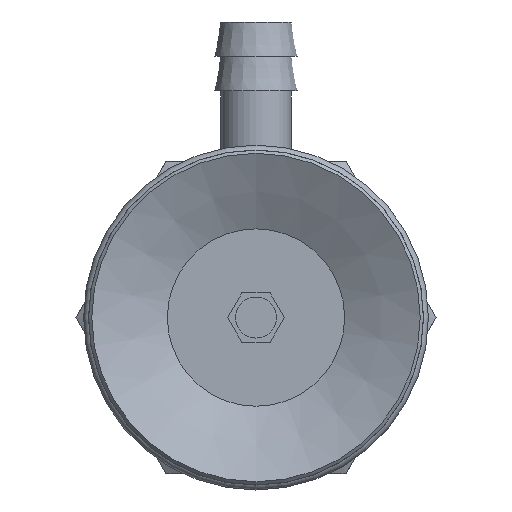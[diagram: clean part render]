
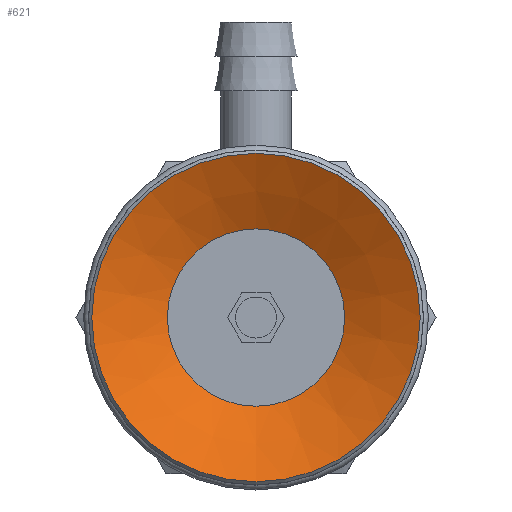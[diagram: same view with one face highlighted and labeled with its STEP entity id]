
A CAD part, front view. The second image highlights one B-rep face of the part: STEP entity #621.
In plain terms, the highlighted conical face has half-angle 63 degrees and reference radius 5.4 mm.
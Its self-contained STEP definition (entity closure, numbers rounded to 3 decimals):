
#621=ADVANCED_FACE('',(#913,#914),#915,.F.);
#913=FACE_BOUND('',#1258,.T.);
#914=FACE_OUTER_BOUND('',#1259,.T.);
#915=CONICAL_SURFACE('',#1260,5.4,1.1);
#1258=EDGE_LOOP('',(#2078));
#1259=EDGE_LOOP('',(#2079));
#1260=AXIS2_PLACEMENT_3D('',#2080,#2081,#2082);
#2078=ORIENTED_EDGE('',*,*,#2460,.F.);
#2079=ORIENTED_EDGE('',*,*,#2461,.T.);
#2080=CARTESIAN_POINT('',(0.0,5.518,0.0));
#2081=DIRECTION('',(-0.0,-1.0,0.));
#2082=DIRECTION('',(0.0,0.,-1.0));
#2460=EDGE_CURVE('',#2853,#2853,#2854,.T.);
#2461=EDGE_CURVE('',#2855,#2855,#2856,.T.);
#2853=VERTEX_POINT('',#3717);
#2854=CIRCLE('',#3718,5.4);
#2855=VERTEX_POINT('',#3719);
#2856=CIRCLE('',#3720,10.0);
#3717=CARTESIAN_POINT('',(0.0,5.518,-5.4));
#3718=AXIS2_PLACEMENT_3D('',#4129,#4130,#4131);
#3719=CARTESIAN_POINT('',(0.0,3.175,-10.0));
#3720=AXIS2_PLACEMENT_3D('',#4132,#4133,#4134);
#4129=CARTESIAN_POINT('',(0.0,5.518,0.0));
#4130=DIRECTION('',(0.0,-1.0,0.));
#4131=DIRECTION('',(0.0,0.,-1.0));
#4132=CARTESIAN_POINT('',(0.0,3.175,0.0));
#4133=DIRECTION('',(0.0,-1.0,0.));
#4134=DIRECTION('',(0.0,0.,-1.0));
